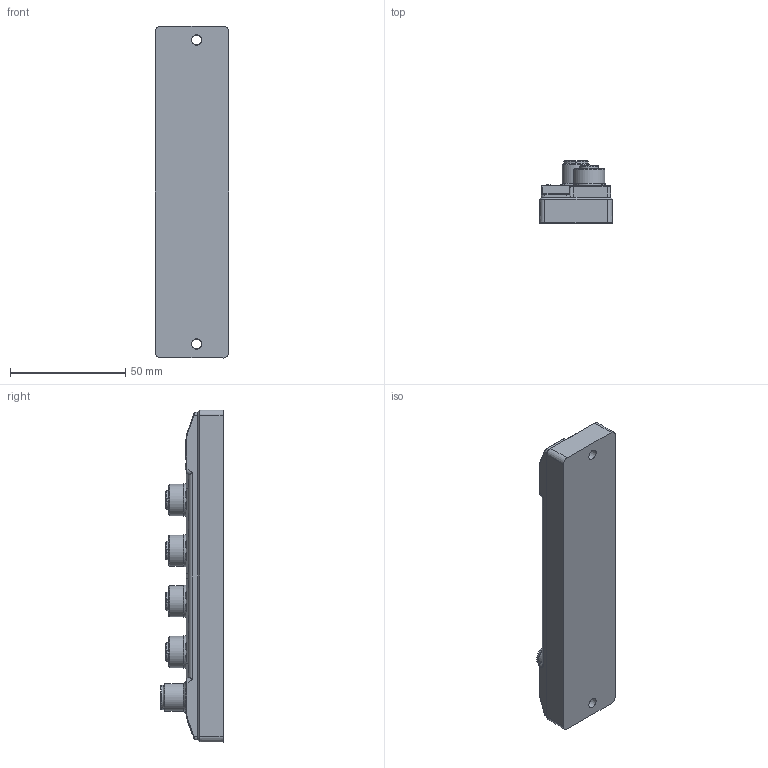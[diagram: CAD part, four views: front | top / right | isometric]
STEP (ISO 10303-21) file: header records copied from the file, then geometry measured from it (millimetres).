
FILE_DESCRIPTION (( 'STEP AP203' ), '1' );
FILE_NAME ('TBIL-S4.step', '2019-07-18T18:15:45', ( '' ), ( '' ), 'SwSTEP 2.0', 'SolidWorks 2017', '' );
FILE_SCHEMA (( 'CONFIG_CONTROL_DESIGN' ));
Products named in the file (1): TBIL-S4
Bounding box: 31.79 x 27 x 144.19 mm (x, y, z)
Volume: 71545.6 mm3; surface area: 21683.5 mm2
Topology: 1 solids, 3 shells, 1229 faces, 3001 edges, 1868 vertices
Faces by surface type: plane 466, cylinder 408, bspline 233, cone 97, torus 25
Full cylindrical faces by diameter (mm): 1 x5, 1.15 x20, 1.5 x20, 1.73 x20, 1.95 x1, 8.5 x1, 9.5 x1, 9.6 x1, 10.65 x1, 11.1 x4, 12 x1, 13.6 x4, 14 x5
Entity records: 39794 total; most frequent: CARTESIAN_POINT 13567, ORIENTED_EDGE 5460, DIRECTION 5131, EDGE_CURVE 2730, AXIS2_PLACEMENT_3D 1932, VERTEX_POINT 1779, EDGE_LOOP 1511, FACE_OUTER_BOUND 1319
